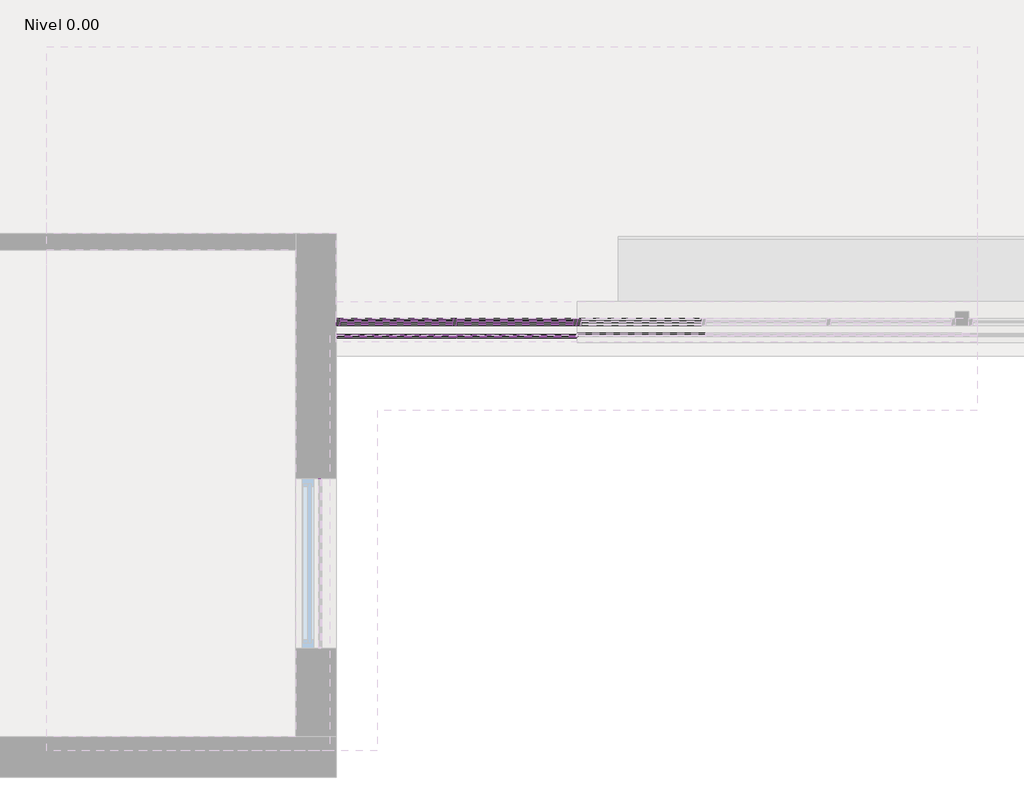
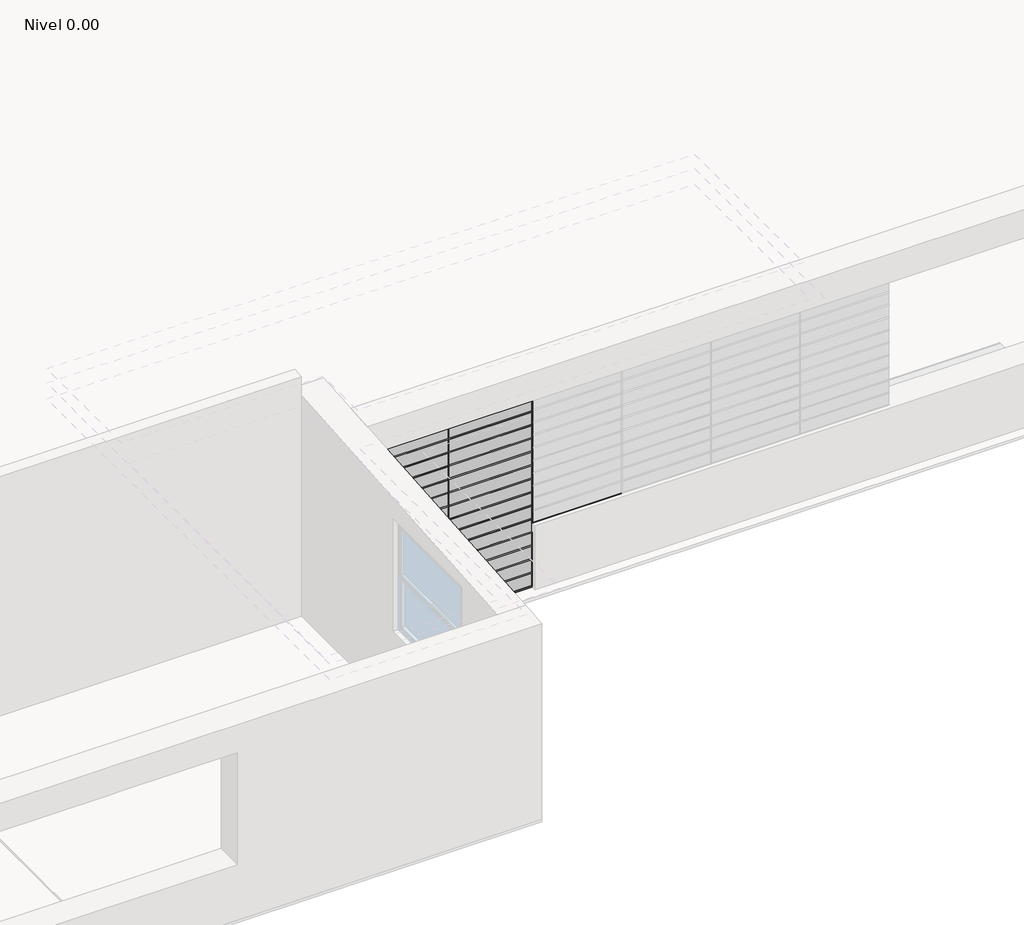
# One storey, part 4 of 27: 100 members, 34 plates.
"""IFC4 building model written with IfcOpenShell, lengths in millimetres."""

from ifc_helpers import new_model, si_unit, origin, place, context, project, spatial, transform, mapped, element, save
from components import circular_mullion_d5be03f1, l_corner_mullion_2c31851b, l_corner_mullion_9e21fd81, rectangular_mullion_753db272, rectangular_mullion_c3d7c421, rectangular_mullion_9b3c7308, rectangular_mullion_00d0a17d, rectangular_mullion_a87e72df, rectangular_mullion_5c6d569c, rectangular_mullion_86ff511a, rectangular_mullion_b6f05ad7, rectangular_mullion_9a28259a, rectangular_mullion_4732226b, rectangular_mullion_bccfeea3, system_panel_837103f9, system_panel_46786032, system_panel_glazed_9dac0013, system_panel_glazed_10130634, system_panel_glazed_d3d69ba9, system_panel_glazed_db34575f

model = new_model("IFC4")

# Units and contexts
model_context = context("Model", 3, world=origin())
ifc_project = project(units=[si_unit("LENGTHUNIT", "METRE", prefix="MILLI")], contexts=[model_context])

# Site, building, storey
site = spatial("IfcSite", under=ifc_project)
building = spatial("IfcBuilding", under=site)
storey = spatial("IfcBuildingStorey", under=building, Name="Nivel 0.00", Elevation=0.0)

# Members
placement = place(None, origin())
circular_mullion_shape = circular_mullion_d5be03f1(model_context)
element("IfcMember", 1, ObjectType="Circular Mullion : ARQ_HERR_16mm", at=placement, inside=storey, context=model_context, shape_type="MappedRepresentation", body=[
    mapped(circular_mullion_shape, transform((-5082.0557705, -3840.5609004, 150.0), x_axis=(0.0, 0.0, 1.0), y_axis=(0.0, 1.0, 0.0), z_axis=(-1.0, 0.0, 0.0))),
])
element("IfcMember", 2, ObjectType="Circular Mullion : ARQ_HERR_16mm", at=placement, inside=storey, context=model_context, shape_type="MappedRepresentation", body=[
    mapped(circular_mullion_shape, transform((-5964.0557705, -3840.5609004, 150.0), x_axis=(0.0, 0.0, 1.0), y_axis=(0.0, 1.0, 0.0), z_axis=(-1.0, 0.0, 0.0))),
])
element("IfcMember", 3, ObjectType="Circular Mullion : ARQ_HERR_16mm", at=placement, inside=storey, context=model_context, shape_type="MappedRepresentation", body=[
    mapped(circular_mullion_shape, transform((-5082.0557705, -3840.5609004, 300.0), x_axis=(0.0, 0.0, 1.0), y_axis=(0.0, 1.0, 0.0), z_axis=(-1.0, 0.0, 0.0))),
])
element("IfcMember", 4, ObjectType="Circular Mullion : ARQ_HERR_16mm", at=placement, inside=storey, context=model_context, shape_type="MappedRepresentation", body=[
    mapped(circular_mullion_shape, transform((-5964.0557705, -3840.5609004, 300.0), x_axis=(0.0, 0.0, 1.0), y_axis=(0.0, 1.0, 0.0), z_axis=(-1.0, 0.0, 0.0))),
])
element("IfcMember", 5, ObjectType="Circular Mullion : ARQ_HERR_16mm", at=placement, inside=storey, context=model_context, shape_type="MappedRepresentation", body=[
    mapped(circular_mullion_shape, transform((-5082.0557705, -3840.5609004, 450.0), x_axis=(0.0, 0.0, 1.0), y_axis=(0.0, 1.0, 0.0), z_axis=(-1.0, 0.0, 0.0))),
])
element("IfcMember", 6, ObjectType="Circular Mullion : ARQ_HERR_16mm", at=placement, inside=storey, context=model_context, shape_type="MappedRepresentation", body=[
    mapped(circular_mullion_shape, transform((-5964.0557705, -3840.5609004, 450.0), x_axis=(0.0, 0.0, 1.0), y_axis=(0.0, 1.0, 0.0), z_axis=(-1.0, 0.0, 0.0))),
])
element("IfcMember", 7, ObjectType="Circular Mullion : ARQ_HERR_16mm", at=placement, inside=storey, context=model_context, shape_type="MappedRepresentation", body=[
    mapped(circular_mullion_shape, transform((-5082.0557705, -3840.5609004, 600.0), x_axis=(0.0, 0.0, 1.0), y_axis=(0.0, 1.0, 0.0), z_axis=(-1.0, 0.0, 0.0))),
])
element("IfcMember", 8, ObjectType="Circular Mullion : ARQ_HERR_16mm", at=placement, inside=storey, context=model_context, shape_type="MappedRepresentation", body=[
    mapped(circular_mullion_shape, transform((-5964.0557705, -3840.5609004, 600.0), x_axis=(0.0, 0.0, 1.0), y_axis=(0.0, 1.0, 0.0), z_axis=(-1.0, 0.0, 0.0))),
])
element("IfcMember", 9, ObjectType="Circular Mullion : ARQ_HERR_16mm", at=placement, inside=storey, context=model_context, shape_type="MappedRepresentation", body=[
    mapped(circular_mullion_shape, transform((-5082.0557705, -3840.5609004, 750.0), x_axis=(0.0, 0.0, 1.0), y_axis=(0.0, 1.0, 0.0), z_axis=(-1.0, 0.0, 0.0))),
])
element("IfcMember", 10, ObjectType="Circular Mullion : ARQ_HERR_16mm", at=placement, inside=storey, context=model_context, shape_type="MappedRepresentation", body=[
    mapped(circular_mullion_shape, transform((-5964.0557705, -3840.5609004, 750.0), x_axis=(0.0, 0.0, 1.0), y_axis=(0.0, 1.0, 0.0), z_axis=(-1.0, 0.0, 0.0))),
])
element("IfcMember", 11, ObjectType="Circular Mullion : ARQ_HERR_16mm", at=placement, inside=storey, context=model_context, shape_type="MappedRepresentation", body=[
    mapped(circular_mullion_shape, transform((-5082.0557705, -3840.5609004, 900.0), x_axis=(0.0, 0.0, 1.0), y_axis=(0.0, 1.0, 0.0), z_axis=(-1.0, 0.0, 0.0))),
])
element("IfcMember", 12, ObjectType="Circular Mullion : ARQ_HERR_16mm", at=placement, inside=storey, context=model_context, shape_type="MappedRepresentation", body=[
    mapped(circular_mullion_shape, transform((-5964.0557705, -3840.5609004, 900.0), x_axis=(0.0, 0.0, 1.0), y_axis=(0.0, 1.0, 0.0), z_axis=(-1.0, 0.0, 0.0))),
])
element("IfcMember", 13, ObjectType="Circular Mullion : ARQ_HERR_16mm", at=placement, inside=storey, context=model_context, shape_type="MappedRepresentation", body=[
    mapped(circular_mullion_shape, transform((-5082.0557705, -3840.5609004, 1050.0), x_axis=(0.0, 0.0, 1.0), y_axis=(0.0, 1.0, 0.0), z_axis=(-1.0, 0.0, 0.0))),
])
element("IfcMember", 14, ObjectType="Circular Mullion : ARQ_HERR_16mm", at=placement, inside=storey, context=model_context, shape_type="MappedRepresentation", body=[
    mapped(circular_mullion_shape, transform((-5964.0557705, -3840.5609004, 1050.0), x_axis=(0.0, 0.0, 1.0), y_axis=(0.0, 1.0, 0.0), z_axis=(-1.0, 0.0, 0.0))),
])
element("IfcMember", 15, ObjectType="Circular Mullion : ARQ_HERR_16mm", at=placement, inside=storey, context=model_context, shape_type="MappedRepresentation", body=[
    mapped(circular_mullion_shape, transform((-5082.0557705, -3840.5609004, 1200.0), x_axis=(0.0, 0.0, 1.0), y_axis=(0.0, 1.0, 0.0), z_axis=(-1.0, 0.0, 0.0))),
])
element("IfcMember", 16, ObjectType="Circular Mullion : ARQ_HERR_16mm", at=placement, inside=storey, context=model_context, shape_type="MappedRepresentation", body=[
    mapped(circular_mullion_shape, transform((-5964.0557705, -3840.5609004, 1200.0), x_axis=(0.0, 0.0, 1.0), y_axis=(0.0, 1.0, 0.0), z_axis=(-1.0, 0.0, 0.0))),
])
element("IfcMember", 17, ObjectType="Circular Mullion : ARQ_HERR_16mm", at=placement, inside=storey, context=model_context, shape_type="MappedRepresentation", body=[
    mapped(circular_mullion_shape, transform((-5082.0557705, -3840.5609004, 1350.0), x_axis=(0.0, 0.0, 1.0), y_axis=(0.0, 1.0, 0.0), z_axis=(-1.0, 0.0, 0.0))),
])
element("IfcMember", 18, ObjectType="Circular Mullion : ARQ_HERR_16mm", at=placement, inside=storey, context=model_context, shape_type="MappedRepresentation", body=[
    mapped(circular_mullion_shape, transform((-5964.0557705, -3840.5609004, 1350.0), x_axis=(0.0, 0.0, 1.0), y_axis=(0.0, 1.0, 0.0), z_axis=(-1.0, 0.0, 0.0))),
])
element("IfcMember", 19, ObjectType="Circular Mullion : ARQ_HERR_16mm", at=placement, inside=storey, context=model_context, shape_type="MappedRepresentation", body=[
    mapped(circular_mullion_shape, transform((-5082.0557705, -3840.5609004, 1500.0), x_axis=(0.0, 0.0, 1.0), y_axis=(0.0, 1.0, 0.0), z_axis=(-1.0, 0.0, 0.0))),
])
element("IfcMember", 20, ObjectType="Circular Mullion : ARQ_HERR_16mm", at=placement, inside=storey, context=model_context, shape_type="MappedRepresentation", body=[
    mapped(circular_mullion_shape, transform((-5964.0557705, -3840.5609004, 1500.0), x_axis=(0.0, 0.0, 1.0), y_axis=(0.0, 1.0, 0.0), z_axis=(-1.0, 0.0, 0.0))),
])
element("IfcMember", 21, ObjectType="Circular Mullion : ARQ_HERR_16mm", at=placement, inside=storey, context=model_context, shape_type="MappedRepresentation", body=[
    mapped(circular_mullion_shape, transform((-5082.0557705, -3840.5609004, 1650.0), x_axis=(0.0, 0.0, 1.0), y_axis=(0.0, 1.0, 0.0), z_axis=(-1.0, 0.0, 0.0))),
])
element("IfcMember", 22, ObjectType="Circular Mullion : ARQ_HERR_16mm", at=placement, inside=storey, context=model_context, shape_type="MappedRepresentation", body=[
    mapped(circular_mullion_shape, transform((-5964.0557705, -3840.5609004, 1650.0), x_axis=(0.0, 0.0, 1.0), y_axis=(0.0, 1.0, 0.0), z_axis=(-1.0, 0.0, 0.0))),
])
element("IfcMember", 23, ObjectType="Circular Mullion : ARQ_HERR_16mm", at=placement, inside=storey, context=model_context, shape_type="MappedRepresentation", body=[
    mapped(circular_mullion_shape, transform((-5082.0557705, -3840.5609004, 1800.0), x_axis=(0.0, 0.0, 1.0), y_axis=(0.0, 1.0, 0.0), z_axis=(-1.0, 0.0, 0.0))),
])
element("IfcMember", 24, ObjectType="Circular Mullion : ARQ_HERR_16mm", at=placement, inside=storey, context=model_context, shape_type="MappedRepresentation", body=[
    mapped(circular_mullion_shape, transform((-5964.0557705, -3840.5609004, 1800.0), x_axis=(0.0, 0.0, 1.0), y_axis=(0.0, 1.0, 0.0), z_axis=(-1.0, 0.0, 0.0))),
])
element("IfcMember", 25, ObjectType="Circular Mullion : ARQ_HERR_16mm", at=placement, inside=storey, context=model_context, shape_type="MappedRepresentation", body=[
    mapped(circular_mullion_shape, transform((-5082.0557705, -3840.5609004, 1950.0), x_axis=(0.0, 0.0, 1.0), y_axis=(0.0, 1.0, 0.0), z_axis=(-1.0, 0.0, 0.0))),
])
element("IfcMember", 26, ObjectType="Circular Mullion : ARQ_HERR_16mm", at=placement, inside=storey, context=model_context, shape_type="MappedRepresentation", body=[
    mapped(circular_mullion_shape, transform((-5964.0557705, -3840.5609004, 1950.0), x_axis=(0.0, 0.0, 1.0), y_axis=(0.0, 1.0, 0.0), z_axis=(-1.0, 0.0, 0.0))),
])
l_corner_mullion_shape = l_corner_mullion_2c31851b(model_context)
element("IfcMember", 27, ObjectType="L Corner Mullion : ARQ_HERR_15X6mm", at=placement, inside=storey, context=model_context, shape_type="MappedRepresentation", body=[
    mapped(l_corner_mullion_shape, transform((-4194.0557705, -3840.5609004, 700.0), x_axis=(0.0, 0.0, -1.0), y_axis=(0.0, -1.0, 0.0), z_axis=(-1.0, 0.0, 0.0))),
])
l_corner_mullion_2_shape = l_corner_mullion_9e21fd81(model_context)
element("IfcMember", 28, ObjectType="L Corner Mullion : ARQ_HERR_15X6mm", at=placement, inside=storey, context=model_context, shape_type="MappedRepresentation", body=[
    mapped(l_corner_mullion_2_shape, transform((-5964.0557705, -3840.5609004, 2100.0), x_axis=(0.0, 0.0, 1.0), y_axis=(0.0, 1.0, 0.0), z_axis=(-1.0, 0.0, 0.0))),
])
element("IfcMember", 29, ObjectType="L Corner Mullion : ARQ_HERR_15X6mm", at=placement, inside=storey, context=model_context, shape_type="MappedRepresentation", body=[
    mapped(l_corner_mullion_2_shape, transform((-5082.0557705, -3840.5609004, 2100.0), x_axis=(0.0, 0.0, 1.0), y_axis=(0.0, 1.0, 0.0), z_axis=(-1.0, 0.0, 0.0))),
])
element("IfcMember", 30, ObjectType="L Corner Mullion : ARQ_HERR_15X6mm", at=placement, inside=storey, context=model_context, shape_type="MappedRepresentation", body=[
    mapped(l_corner_mullion_2_shape, transform((-4206.0557705, -3840.5609004, 0.0), x_axis=(0.0, 0.0, -1.0), y_axis=(0.0, 1.0, 0.0), z_axis=(1.0, 0.0, 0.0))),
])
element("IfcMember", 31, ObjectType="L Corner Mullion : ARQ_HERR_15X6mm", at=placement, inside=storey, context=model_context, shape_type="MappedRepresentation", body=[
    mapped(l_corner_mullion_2_shape, transform((-5088.0557705, -3840.5609004, 0.0), x_axis=(0.0, 0.0, -1.0), y_axis=(0.0, 1.0, 0.0), z_axis=(1.0, 0.0, 0.0))),
])
rectangular_mullion_shape = rectangular_mullion_753db272(model_context)
element("IfcMember", 32, ObjectType="Rectangular Mullion : ARQ_TV_MULL_50x30mm", at=placement, inside=storey, context=model_context, shape_type="MappedRepresentation", body=[
    mapped(rectangular_mullion_shape, transform((-4230.0557705, -3740.6047654, 2100.0), x_axis=(0.0, 0.0, 1.0), y_axis=(0.0, -1.0, 0.0), z_axis=(1.0, 0.0, 0.0))),
])
rectangular_mullion_2_shape = rectangular_mullion_c3d7c421(model_context)
element("IfcMember", 33, ObjectType="Rectangular Mullion : ARQ_TV_MULL_50x30mm", at=placement, inside=storey, context=model_context, shape_type="MappedRepresentation", body=[
    mapped(rectangular_mullion_2_shape, transform((-5115.0557705, -3740.6047654, 2100.0), x_axis=(0.0, 0.0, 1.0), y_axis=(0.0, -1.0, 0.0), z_axis=(1.0, 0.0, 0.0))),
])
element("IfcMember", 34, ObjectType="Rectangular Mullion : ARQ_TV_MULL_50x30mm", at=placement, inside=storey, context=model_context, shape_type="MappedRepresentation", body=[
    mapped(rectangular_mullion_2_shape, transform((-5940.0557705, -3740.6047654, 0.0), x_axis=(0.0, 0.0, -1.0), y_axis=(0.0, -1.0, 0.0), z_axis=(-1.0, 0.0, 0.0))),
])
element("IfcMember", 35, ObjectType="Rectangular Mullion : ARQ_TV_MULL_50x30mm", at=placement, inside=storey, context=model_context, shape_type="MappedRepresentation", body=[
    mapped(rectangular_mullion_shape, transform((-5085.0557705, -3740.6047654, 0.0), x_axis=(0.0, 0.0, -1.0), y_axis=(0.0, -1.0, 0.0), z_axis=(-1.0, 0.0, 0.0))),
])
rectangular_mullion_3_shape = rectangular_mullion_9b3c7308(model_context)
element("IfcMember", 36, ObjectType="Rectangular Mullion : ARQ_TV_MULL_30x20mm", at=placement, inside=storey, context=model_context, shape_type="MappedRepresentation", body=[
    mapped(rectangular_mullion_3_shape, transform((-5115.0557705, -3740.6047654, 700.0), x_axis=(0.0, 0.0, 1.0), y_axis=(0.0, -1.0, 0.0), z_axis=(1.0, 0.0, 0.0))),
])
element("IfcMember", 37, ObjectType="Rectangular Mullion : ARQ_TV_MULL_30x20mm", at=placement, inside=storey, context=model_context, shape_type="MappedRepresentation", body=[
    mapped(rectangular_mullion_3_shape, transform((-5115.0557705, -3740.6047654, 1400.0), x_axis=(0.0, 0.0, 1.0), y_axis=(0.0, -1.0, 0.0), z_axis=(1.0, 0.0, 0.0))),
])
rectangular_mullion_4_shape = rectangular_mullion_00d0a17d(model_context)
element("IfcMember", 38, ObjectType="Rectangular Mullion : ARQ_TV_MULL_30x20mm", at=placement, inside=storey, context=model_context, shape_type="MappedRepresentation", body=[
    mapped(rectangular_mullion_4_shape, transform((-4230.0557705, -3740.6047654, 700.0), x_axis=(0.0, 0.0, 1.0), y_axis=(0.0, -1.0, 0.0), z_axis=(1.0, 0.0, 0.0))),
])
element("IfcMember", 39, ObjectType="Rectangular Mullion : ARQ_TV_MULL_30x20mm", at=placement, inside=storey, context=model_context, shape_type="MappedRepresentation", body=[
    mapped(rectangular_mullion_4_shape, transform((-4230.0557705, -3740.6047654, 1400.0), x_axis=(0.0, 0.0, 1.0), y_axis=(0.0, -1.0, 0.0), z_axis=(1.0, 0.0, 0.0))),
])
rectangular_mullion_5_shape = rectangular_mullion_a87e72df(model_context)
element("IfcMember", 40, ObjectType="Rectangular Mullion : ARQ_TV_MULL_50x30mm", at=placement, inside=storey, context=model_context, shape_type="MappedRepresentation", body=[
    mapped(rectangular_mullion_5_shape, transform((-5100.0557705, -3740.6047654, 0.0), x_axis=(1.0, 0.0, 0.0), y_axis=(0.0, -1.0, 0.0), z_axis=(0.0, 0.0, -1.0))),
])
element("IfcMember", 41, ObjectType="Rectangular Mullion : ARQ_TV_MULL_50x30mm", at=placement, inside=storey, context=model_context, shape_type="MappedRepresentation", body=[
    mapped(rectangular_mullion_5_shape, transform((-5100.0557705, -3740.6047654, 1400.0), x_axis=(1.0, 0.0, 0.0), y_axis=(0.0, -1.0, 0.0), z_axis=(0.0, 0.0, -1.0))),
])
rectangular_mullion_6_shape = rectangular_mullion_5c6d569c(model_context)
element("IfcMember", 42, ObjectType="Rectangular Mullion : ARQ_TV_MULL_50x30mm", at=placement, inside=storey, context=model_context, shape_type="MappedRepresentation", body=[
    mapped(rectangular_mullion_6_shape, transform((-4200.0557705, -3740.6047654, 0.0), x_axis=(1.0, 0.0, 0.0), y_axis=(0.0, -1.0, 0.0), z_axis=(0.0, 0.0, -1.0))),
])
element("IfcMember", 43, ObjectType="Rectangular Mullion : ARQ_TV_MULL_50x30mm", at=placement, inside=storey, context=model_context, shape_type="MappedRepresentation", body=[
    mapped(rectangular_mullion_6_shape, transform((-4200.0557705, -3740.6047654, 1400.0), x_axis=(1.0, 0.0, 0.0), y_axis=(0.0, -1.0, 0.0), z_axis=(0.0, 0.0, -1.0))),
])
element("IfcMember", 44, ObjectType="Rectangular Mullion : ARQ_TV_MULL_50x30mm", at=placement, inside=storey, context=model_context, shape_type="MappedRepresentation", body=[
    mapped(rectangular_mullion_6_shape, transform((-5970.0557705, -3740.6047654, 2100.0), x_axis=(-1.0, 0.0, 0.0), y_axis=(0.0, -1.0, 0.0), z_axis=(0.0, 0.0, 1.0))),
])
element("IfcMember", 45, ObjectType="Rectangular Mullion : ARQ_TV_MULL_50x30mm", at=placement, inside=storey, context=model_context, shape_type="MappedRepresentation", body=[
    mapped(rectangular_mullion_6_shape, transform((-4200.0557705, -3740.6047654, 2100.0), x_axis=(-1.0, 0.0, 0.0), y_axis=(0.0, -1.0, 0.0), z_axis=(0.0, 0.0, 1.0))),
])
element("IfcMember", 46, ObjectType="Rectangular Mullion : ARQ_TV_MULL_50x30mm", at=placement, inside=storey, context=model_context, shape_type="MappedRepresentation", body=[
    mapped(rectangular_mullion_6_shape, transform((-5970.0557705, -3740.6047654, 700.0), x_axis=(-1.0, 0.0, 0.0), y_axis=(0.0, -1.0, 0.0), z_axis=(0.0, 0.0, 1.0))),
])
element("IfcMember", 47, ObjectType="Rectangular Mullion : ARQ_TV_MULL_50x30mm", at=placement, inside=storey, context=model_context, shape_type="MappedRepresentation", body=[
    mapped(rectangular_mullion_6_shape, transform((-4200.0557705, -3740.6047654, 1400.0), x_axis=(-1.0, 0.0, 0.0), y_axis=(0.0, -1.0, 0.0), z_axis=(0.0, 0.0, 1.0))),
])
rectangular_mullion_7_shape = rectangular_mullion_86ff511a(model_context)
element("IfcMember", 48, ObjectType="Rectangular Mullion : ARQ_TV_MULL_50x30mm", at=placement, inside=storey, context=model_context, shape_type="MappedRepresentation", body=[
    mapped(rectangular_mullion_7_shape, transform((-4170.0557705, -3740.6047654, 700.0), x_axis=(0.0, 0.0, -1.0), y_axis=(0.0, -1.0, 0.0), z_axis=(-1.0, 0.0, 0.0))),
])
element("IfcMember", 49, ObjectType="Rectangular Mullion : ARQ_TV_MULL_50x30mm", at=placement, inside=storey, context=model_context, shape_type="MappedRepresentation", body=[
    mapped(rectangular_mullion_5_shape, transform((-5100.0557705, -3740.6047654, 700.0), x_axis=(1.0, 0.0, 0.0), y_axis=(0.0, -1.0, 0.0), z_axis=(0.0, 0.0, -1.0))),
])
element("IfcMember", 50, ObjectType="Rectangular Mullion : ARQ_TV_MULL_50x30mm", at=placement, inside=storey, context=model_context, shape_type="MappedRepresentation", body=[
    mapped(rectangular_mullion_6_shape, transform((-4200.0557705, -3740.6047654, 700.0), x_axis=(1.0, 0.0, 0.0), y_axis=(0.0, -1.0, 0.0), z_axis=(0.0, 0.0, -1.0))),
])
element("IfcMember", 51, ObjectType="Rectangular Mullion : ARQ_TV_MULL_50x30mm", at=placement, inside=storey, context=model_context, shape_type="MappedRepresentation", body=[
    mapped(rectangular_mullion_6_shape, transform((-5970.0557705, -3740.6047654, 1400.0), x_axis=(-1.0, 0.0, 0.0), y_axis=(0.0, -1.0, 0.0), z_axis=(0.0, 0.0, 1.0))),
])
rectangular_mullion_8_shape = rectangular_mullion_b6f05ad7(model_context)
element("IfcMember", 52, ObjectType="Rectangular Mullion : ARQ_HERR_15X6mm", at=placement, inside=storey, context=model_context, shape_type="MappedRepresentation", body=[
    mapped(rectangular_mullion_8_shape, transform((-4200.0557705, -3840.5609004, 2100.0), x_axis=(-1.0, 0.0, 0.0), y_axis=(0.0, -1.0, 0.0), z_axis=(0.0, 0.0, 1.0))),
])
element("IfcMember", 53, ObjectType="Rectangular Mullion : ARQ_HERR_15X6mm", at=placement, inside=storey, context=model_context, shape_type="MappedRepresentation", body=[
    mapped(rectangular_mullion_8_shape, transform((-4200.0557705, -3840.5609004, 840.0), x_axis=(-1.0, 0.0, 0.0), y_axis=(0.0, -1.0, 0.0), z_axis=(0.0, 0.0, 1.0))),
])
element("IfcMember", 54, ObjectType="Rectangular Mullion : ARQ_HERR_15X6mm", at=placement, inside=storey, context=model_context, shape_type="MappedRepresentation", body=[
    mapped(rectangular_mullion_8_shape, transform((-4200.0557705, -3840.5609004, 980.0), x_axis=(-1.0, 0.0, 0.0), y_axis=(0.0, -1.0, 0.0), z_axis=(0.0, 0.0, 1.0))),
])
element("IfcMember", 55, ObjectType="Rectangular Mullion : ARQ_HERR_15X6mm", at=placement, inside=storey, context=model_context, shape_type="MappedRepresentation", body=[
    mapped(rectangular_mullion_8_shape, transform((-4200.0557705, -3840.5609004, 1120.0), x_axis=(-1.0, 0.0, 0.0), y_axis=(0.0, -1.0, 0.0), z_axis=(0.0, 0.0, 1.0))),
])
element("IfcMember", 56, ObjectType="Rectangular Mullion : ARQ_HERR_15X6mm", at=placement, inside=storey, context=model_context, shape_type="MappedRepresentation", body=[
    mapped(rectangular_mullion_8_shape, transform((-4200.0557705, -3840.5609004, 1260.0), x_axis=(-1.0, 0.0, 0.0), y_axis=(0.0, -1.0, 0.0), z_axis=(0.0, 0.0, 1.0))),
])
element("IfcMember", 57, ObjectType="Rectangular Mullion : ARQ_HERR_15X6mm", at=placement, inside=storey, context=model_context, shape_type="MappedRepresentation", body=[
    mapped(rectangular_mullion_8_shape, transform((-4200.0557705, -3840.5609004, 1400.0), x_axis=(-1.0, 0.0, 0.0), y_axis=(0.0, -1.0, 0.0), z_axis=(0.0, 0.0, 1.0))),
])
element("IfcMember", 58, ObjectType="Rectangular Mullion : ARQ_HERR_15X6mm", at=placement, inside=storey, context=model_context, shape_type="MappedRepresentation", body=[
    mapped(rectangular_mullion_8_shape, transform((-4200.0557705, -3840.5609004, 1540.0), x_axis=(-1.0, 0.0, 0.0), y_axis=(0.0, -1.0, 0.0), z_axis=(0.0, 0.0, 1.0))),
])
element("IfcMember", 59, ObjectType="Rectangular Mullion : ARQ_HERR_15X6mm", at=placement, inside=storey, context=model_context, shape_type="MappedRepresentation", body=[
    mapped(rectangular_mullion_8_shape, transform((-4200.0557705, -3840.5609004, 1680.0), x_axis=(-1.0, 0.0, 0.0), y_axis=(0.0, -1.0, 0.0), z_axis=(0.0, 0.0, 1.0))),
])
element("IfcMember", 60, ObjectType="Rectangular Mullion : ARQ_HERR_15X6mm", at=placement, inside=storey, context=model_context, shape_type="MappedRepresentation", body=[
    mapped(rectangular_mullion_8_shape, transform((-4200.0557705, -3840.5609004, 1820.0), x_axis=(-1.0, 0.0, 0.0), y_axis=(0.0, -1.0, 0.0), z_axis=(0.0, 0.0, 1.0))),
])
element("IfcMember", 61, ObjectType="Rectangular Mullion : ARQ_HERR_15X6mm", at=placement, inside=storey, context=model_context, shape_type="MappedRepresentation", body=[
    mapped(rectangular_mullion_8_shape, transform((-4200.0557705, -3840.5609004, 1960.0), x_axis=(-1.0, 0.0, 0.0), y_axis=(0.0, -1.0, 0.0), z_axis=(0.0, 0.0, 1.0))),
])
rectangular_mullion_9_shape = rectangular_mullion_9a28259a(model_context)
element("IfcMember", 62, ObjectType="Rectangular Mullion : ARQ_HERR_15X6mm", at=placement, inside=storey, context=model_context, shape_type="MappedRepresentation", body=[
    mapped(rectangular_mullion_9_shape, transform((-6092.5557705, -4890.5609005, 1266.6666667), x_axis=(0.0, 1.0, 0.0), y_axis=(-1.0, 0.0, 0.0), z_axis=(0.0, 0.0, 1.0))),
])
element("IfcMember", 63, ObjectType="Rectangular Mullion : ARQ_HERR_15X6mm", at=placement, inside=storey, context=model_context, shape_type="MappedRepresentation", body=[
    mapped(rectangular_mullion_9_shape, transform((-6092.5557705, -4890.5609005, 1405.5555556), x_axis=(0.0, 1.0, 0.0), y_axis=(-1.0, 0.0, 0.0), z_axis=(0.0, 0.0, 1.0))),
])
element("IfcMember", 64, ObjectType="Rectangular Mullion : ARQ_HERR_15X6mm", at=placement, inside=storey, context=model_context, shape_type="MappedRepresentation", body=[
    mapped(rectangular_mullion_9_shape, transform((-6092.5557705, -4890.5609005, 1544.4444444), x_axis=(0.0, 1.0, 0.0), y_axis=(-1.0, 0.0, 0.0), z_axis=(0.0, 0.0, 1.0))),
])
element("IfcMember", 65, ObjectType="Rectangular Mullion : ARQ_HERR_15X6mm", at=placement, inside=storey, context=model_context, shape_type="MappedRepresentation", body=[
    mapped(rectangular_mullion_9_shape, transform((-6092.5557705, -4890.5609005, 1683.3333333), x_axis=(0.0, 1.0, 0.0), y_axis=(-1.0, 0.0, 0.0), z_axis=(0.0, 0.0, 1.0))),
])
element("IfcMember", 66, ObjectType="Rectangular Mullion : ARQ_HERR_15X6mm", at=placement, inside=storey, context=model_context, shape_type="MappedRepresentation", body=[
    mapped(rectangular_mullion_9_shape, transform((-6092.5557705, -4890.5609005, 1822.2222222), x_axis=(0.0, 1.0, 0.0), y_axis=(-1.0, 0.0, 0.0), z_axis=(0.0, 0.0, 1.0))),
])
element("IfcMember", 67, ObjectType="Rectangular Mullion : ARQ_HERR_15X6mm", at=placement, inside=storey, context=model_context, shape_type="MappedRepresentation", body=[
    mapped(rectangular_mullion_9_shape, transform((-6092.5557705, -4890.5609005, 1961.1111111), x_axis=(0.0, 1.0, 0.0), y_axis=(-1.0, 0.0, 0.0), z_axis=(0.0, 0.0, 1.0))),
])
rectangular_mullion_10_shape = rectangular_mullion_4732226b(model_context)
element("IfcMember", 68, ObjectType="Rectangular Mullion : ARQ_HERR_15X6mm", at=placement, inside=storey, context=model_context, shape_type="MappedRepresentation", body=[
    mapped(rectangular_mullion_10_shape, transform((-5085.0557705, -3840.5609004, 0.0), x_axis=(-1.0, 0.0, 0.0), y_axis=(0.0, 1.0, 0.0), z_axis=(0.0, 0.0, -1.0))),
])
element("IfcMember", 69, ObjectType="Rectangular Mullion : ARQ_HERR_15X6mm", at=placement, inside=storey, context=model_context, shape_type="MappedRepresentation", body=[
    mapped(rectangular_mullion_10_shape, transform((-5085.0557705, -3840.5609004, 150.0), x_axis=(-1.0, 0.0, 0.0), y_axis=(0.0, 1.0, 0.0), z_axis=(0.0, 0.0, -1.0))),
])
element("IfcMember", 70, ObjectType="Rectangular Mullion : ARQ_HERR_15X6mm", at=placement, inside=storey, context=model_context, shape_type="MappedRepresentation", body=[
    mapped(rectangular_mullion_10_shape, transform((-5085.0557705, -3840.5609004, 300.0), x_axis=(-1.0, 0.0, 0.0), y_axis=(0.0, 1.0, 0.0), z_axis=(0.0, 0.0, -1.0))),
])
element("IfcMember", 71, ObjectType="Rectangular Mullion : ARQ_HERR_15X6mm", at=placement, inside=storey, context=model_context, shape_type="MappedRepresentation", body=[
    mapped(rectangular_mullion_10_shape, transform((-5085.0557705, -3840.5609004, 450.0), x_axis=(-1.0, 0.0, 0.0), y_axis=(0.0, 1.0, 0.0), z_axis=(0.0, 0.0, -1.0))),
])
element("IfcMember", 72, ObjectType="Rectangular Mullion : ARQ_HERR_15X6mm", at=placement, inside=storey, context=model_context, shape_type="MappedRepresentation", body=[
    mapped(rectangular_mullion_10_shape, transform((-5085.0557705, -3840.5609004, 600.0), x_axis=(-1.0, 0.0, 0.0), y_axis=(0.0, 1.0, 0.0), z_axis=(0.0, 0.0, -1.0))),
])
element("IfcMember", 73, ObjectType="Rectangular Mullion : ARQ_HERR_15X6mm", at=placement, inside=storey, context=model_context, shape_type="MappedRepresentation", body=[
    mapped(rectangular_mullion_10_shape, transform((-5085.0557705, -3840.5609004, 750.0), x_axis=(-1.0, 0.0, 0.0), y_axis=(0.0, 1.0, 0.0), z_axis=(0.0, 0.0, -1.0))),
])
element("IfcMember", 74, ObjectType="Rectangular Mullion : ARQ_HERR_15X6mm", at=placement, inside=storey, context=model_context, shape_type="MappedRepresentation", body=[
    mapped(rectangular_mullion_10_shape, transform((-5085.0557705, -3840.5609004, 900.0), x_axis=(-1.0, 0.0, 0.0), y_axis=(0.0, 1.0, 0.0), z_axis=(0.0, 0.0, -1.0))),
])
element("IfcMember", 75, ObjectType="Rectangular Mullion : ARQ_HERR_15X6mm", at=placement, inside=storey, context=model_context, shape_type="MappedRepresentation", body=[
    mapped(rectangular_mullion_10_shape, transform((-5085.0557705, -3840.5609004, 1050.0), x_axis=(-1.0, 0.0, 0.0), y_axis=(0.0, 1.0, 0.0), z_axis=(0.0, 0.0, -1.0))),
])
element("IfcMember", 76, ObjectType="Rectangular Mullion : ARQ_HERR_15X6mm", at=placement, inside=storey, context=model_context, shape_type="MappedRepresentation", body=[
    mapped(rectangular_mullion_10_shape, transform((-5085.0557705, -3840.5609004, 1200.0), x_axis=(-1.0, 0.0, 0.0), y_axis=(0.0, 1.0, 0.0), z_axis=(0.0, 0.0, -1.0))),
])
element("IfcMember", 77, ObjectType="Rectangular Mullion : ARQ_HERR_15X6mm", at=placement, inside=storey, context=model_context, shape_type="MappedRepresentation", body=[
    mapped(rectangular_mullion_10_shape, transform((-5085.0557705, -3840.5609004, 1350.0), x_axis=(-1.0, 0.0, 0.0), y_axis=(0.0, 1.0, 0.0), z_axis=(0.0, 0.0, -1.0))),
])
element("IfcMember", 78, ObjectType="Rectangular Mullion : ARQ_HERR_15X6mm", at=placement, inside=storey, context=model_context, shape_type="MappedRepresentation", body=[
    mapped(rectangular_mullion_10_shape, transform((-5085.0557705, -3840.5609004, 1500.0), x_axis=(-1.0, 0.0, 0.0), y_axis=(0.0, 1.0, 0.0), z_axis=(0.0, 0.0, -1.0))),
])
element("IfcMember", 79, ObjectType="Rectangular Mullion : ARQ_HERR_15X6mm", at=placement, inside=storey, context=model_context, shape_type="MappedRepresentation", body=[
    mapped(rectangular_mullion_10_shape, transform((-5085.0557705, -3840.5609004, 1650.0), x_axis=(-1.0, 0.0, 0.0), y_axis=(0.0, 1.0, 0.0), z_axis=(0.0, 0.0, -1.0))),
])
element("IfcMember", 80, ObjectType="Rectangular Mullion : ARQ_HERR_15X6mm", at=placement, inside=storey, context=model_context, shape_type="MappedRepresentation", body=[
    mapped(rectangular_mullion_10_shape, transform((-5085.0557705, -3840.5609004, 1800.0), x_axis=(-1.0, 0.0, 0.0), y_axis=(0.0, 1.0, 0.0), z_axis=(0.0, 0.0, -1.0))),
])
rectangular_mullion_11_shape = rectangular_mullion_bccfeea3(model_context)
element("IfcMember", 81, ObjectType="Rectangular Mullion : ARQ_HERR_15X6mm", at=placement, inside=storey, context=model_context, shape_type="MappedRepresentation", body=[
    mapped(rectangular_mullion_11_shape, transform((-5970.0557705, -3840.5609004, 0.0), x_axis=(-1.0, 0.0, 0.0), y_axis=(0.0, 1.0, 0.0), z_axis=(0.0, 0.0, -1.0))),
])
element("IfcMember", 82, ObjectType="Rectangular Mullion : ARQ_HERR_15X6mm", at=placement, inside=storey, context=model_context, shape_type="MappedRepresentation", body=[
    mapped(rectangular_mullion_11_shape, transform((-5970.0557705, -3840.5609004, 150.0), x_axis=(-1.0, 0.0, 0.0), y_axis=(0.0, 1.0, 0.0), z_axis=(0.0, 0.0, -1.0))),
])
element("IfcMember", 83, ObjectType="Rectangular Mullion : ARQ_HERR_15X6mm", at=placement, inside=storey, context=model_context, shape_type="MappedRepresentation", body=[
    mapped(rectangular_mullion_11_shape, transform((-5970.0557705, -3840.5609004, 300.0), x_axis=(-1.0, 0.0, 0.0), y_axis=(0.0, 1.0, 0.0), z_axis=(0.0, 0.0, -1.0))),
])
element("IfcMember", 84, ObjectType="Rectangular Mullion : ARQ_HERR_15X6mm", at=placement, inside=storey, context=model_context, shape_type="MappedRepresentation", body=[
    mapped(rectangular_mullion_11_shape, transform((-5970.0557705, -3840.5609004, 450.0), x_axis=(-1.0, 0.0, 0.0), y_axis=(0.0, 1.0, 0.0), z_axis=(0.0, 0.0, -1.0))),
])
element("IfcMember", 85, ObjectType="Rectangular Mullion : ARQ_HERR_15X6mm", at=placement, inside=storey, context=model_context, shape_type="MappedRepresentation", body=[
    mapped(rectangular_mullion_11_shape, transform((-5970.0557705, -3840.5609004, 600.0), x_axis=(-1.0, 0.0, 0.0), y_axis=(0.0, 1.0, 0.0), z_axis=(0.0, 0.0, -1.0))),
])
element("IfcMember", 86, ObjectType="Rectangular Mullion : ARQ_HERR_15X6mm", at=placement, inside=storey, context=model_context, shape_type="MappedRepresentation", body=[
    mapped(rectangular_mullion_11_shape, transform((-5970.0557705, -3840.5609004, 750.0), x_axis=(-1.0, 0.0, 0.0), y_axis=(0.0, 1.0, 0.0), z_axis=(0.0, 0.0, -1.0))),
])
element("IfcMember", 87, ObjectType="Rectangular Mullion : ARQ_HERR_15X6mm", at=placement, inside=storey, context=model_context, shape_type="MappedRepresentation", body=[
    mapped(rectangular_mullion_11_shape, transform((-5970.0557705, -3840.5609004, 900.0), x_axis=(-1.0, 0.0, 0.0), y_axis=(0.0, 1.0, 0.0), z_axis=(0.0, 0.0, -1.0))),
])
element("IfcMember", 88, ObjectType="Rectangular Mullion : ARQ_HERR_15X6mm", at=placement, inside=storey, context=model_context, shape_type="MappedRepresentation", body=[
    mapped(rectangular_mullion_11_shape, transform((-5970.0557705, -3840.5609004, 1050.0), x_axis=(-1.0, 0.0, 0.0), y_axis=(0.0, 1.0, 0.0), z_axis=(0.0, 0.0, -1.0))),
])
element("IfcMember", 89, ObjectType="Rectangular Mullion : ARQ_HERR_15X6mm", at=placement, inside=storey, context=model_context, shape_type="MappedRepresentation", body=[
    mapped(rectangular_mullion_11_shape, transform((-5970.0557705, -3840.5609004, 1200.0), x_axis=(-1.0, 0.0, 0.0), y_axis=(0.0, 1.0, 0.0), z_axis=(0.0, 0.0, -1.0))),
])
element("IfcMember", 90, ObjectType="Rectangular Mullion : ARQ_HERR_15X6mm", at=placement, inside=storey, context=model_context, shape_type="MappedRepresentation", body=[
    mapped(rectangular_mullion_11_shape, transform((-5970.0557705, -3840.5609004, 1350.0), x_axis=(-1.0, 0.0, 0.0), y_axis=(0.0, 1.0, 0.0), z_axis=(0.0, 0.0, -1.0))),
])
element("IfcMember", 91, ObjectType="Rectangular Mullion : ARQ_HERR_15X6mm", at=placement, inside=storey, context=model_context, shape_type="MappedRepresentation", body=[
    mapped(rectangular_mullion_11_shape, transform((-5970.0557705, -3840.5609004, 1500.0), x_axis=(-1.0, 0.0, 0.0), y_axis=(0.0, 1.0, 0.0), z_axis=(0.0, 0.0, -1.0))),
])
element("IfcMember", 92, ObjectType="Rectangular Mullion : ARQ_HERR_15X6mm", at=placement, inside=storey, context=model_context, shape_type="MappedRepresentation", body=[
    mapped(rectangular_mullion_11_shape, transform((-5970.0557705, -3840.5609004, 1650.0), x_axis=(-1.0, 0.0, 0.0), y_axis=(0.0, 1.0, 0.0), z_axis=(0.0, 0.0, -1.0))),
])
element("IfcMember", 93, ObjectType="Rectangular Mullion : ARQ_HERR_15X6mm", at=placement, inside=storey, context=model_context, shape_type="MappedRepresentation", body=[
    mapped(rectangular_mullion_11_shape, transform((-5970.0557705, -3840.5609004, 1800.0), x_axis=(-1.0, 0.0, 0.0), y_axis=(0.0, 1.0, 0.0), z_axis=(0.0, 0.0, -1.0))),
])
element("IfcMember", 94, ObjectType="Rectangular Mullion : ARQ_HERR_15X6mm", at=placement, inside=storey, context=model_context, shape_type="MappedRepresentation", body=[
    mapped(rectangular_mullion_11_shape, transform((-4200.0557705, -3840.5609004, 150.0), x_axis=(1.0, 0.0, 0.0), y_axis=(0.0, 1.0, 0.0), z_axis=(0.0, 0.0, 1.0))),
])
element("IfcMember", 95, ObjectType="Rectangular Mullion : ARQ_HERR_15X6mm", at=placement, inside=storey, context=model_context, shape_type="MappedRepresentation", body=[
    mapped(rectangular_mullion_11_shape, transform((-4200.0557705, -3840.5609004, 300.0), x_axis=(1.0, 0.0, 0.0), y_axis=(0.0, 1.0, 0.0), z_axis=(0.0, 0.0, 1.0))),
])
element("IfcMember", 96, ObjectType="Rectangular Mullion : ARQ_HERR_15X6mm", at=placement, inside=storey, context=model_context, shape_type="MappedRepresentation", body=[
    mapped(rectangular_mullion_11_shape, transform((-4200.0557705, -3840.5609004, 450.0), x_axis=(1.0, 0.0, 0.0), y_axis=(0.0, 1.0, 0.0), z_axis=(0.0, 0.0, 1.0))),
])
element("IfcMember", 97, ObjectType="Rectangular Mullion : ARQ_HERR_15X6mm", at=placement, inside=storey, context=model_context, shape_type="MappedRepresentation", body=[
    mapped(rectangular_mullion_11_shape, transform((-4200.0557705, -3840.5609004, 600.0), x_axis=(1.0, 0.0, 0.0), y_axis=(0.0, 1.0, 0.0), z_axis=(0.0, 0.0, 1.0))),
])
element("IfcMember", 98, ObjectType="Rectangular Mullion : ARQ_HERR_15X6mm", at=placement, inside=storey, context=model_context, shape_type="MappedRepresentation", body=[
    mapped(rectangular_mullion_10_shape, transform((-5085.0557705, -3840.5609004, 1950.0), x_axis=(-1.0, 0.0, 0.0), y_axis=(0.0, 1.0, 0.0), z_axis=(0.0, 0.0, -1.0))),
])
element("IfcMember", 99, ObjectType="Rectangular Mullion : ARQ_HERR_15X6mm", at=placement, inside=storey, context=model_context, shape_type="MappedRepresentation", body=[
    mapped(rectangular_mullion_11_shape, transform((-4200.0557705, -3840.5609004, 2100.0), x_axis=(1.0, 0.0, 0.0), y_axis=(0.0, 1.0, 0.0), z_axis=(0.0, 0.0, 1.0))),
])
element("IfcMember", 100, ObjectType="Rectangular Mullion : ARQ_HERR_15X6mm", at=placement, inside=storey, context=model_context, shape_type="MappedRepresentation", body=[
    mapped(rectangular_mullion_11_shape, transform((-5970.0557705, -3840.5609004, 1950.0), x_axis=(-1.0, 0.0, 0.0), y_axis=(0.0, 1.0, 0.0), z_axis=(0.0, 0.0, -1.0))),
])

# Plates
system_panel_shape = system_panel_837103f9(model_context)
element("IfcPlate", 101, ObjectType="System Panel : VACÍO", at=placement, inside=storey, context=model_context, shape_type="MappedRepresentation", body=[
    mapped(system_panel_shape, transform((-4644.0557705, -3840.5609004, 6.0), x_axis=(-1.0, 0.0, 0.0), y_axis=(0.0, -1.0, 0.0), z_axis=(0.0, 0.0, 1.0))),
])
element("IfcPlate", 102, ObjectType="System Panel : VACÍO", at=placement, inside=storey, context=model_context, shape_type="MappedRepresentation", body=[
    mapped(system_panel_shape, transform((-5526.0557705, -3840.5609004, 6.0), x_axis=(-1.0, 0.0, 0.0), y_axis=(0.0, -1.0, 0.0), z_axis=(0.0, 0.0, 1.0))),
])
element("IfcPlate", 103, ObjectType="System Panel : VACÍO", at=placement, inside=storey, context=model_context, shape_type="MappedRepresentation", body=[
    mapped(system_panel_shape, transform((-4644.0557705, -3840.5609004, 1958.0), x_axis=(-1.0, 0.0, 0.0), y_axis=(0.0, -1.0, 0.0), z_axis=(0.0, 0.0, 1.0))),
])
element("IfcPlate", 104, ObjectType="System Panel : VACÍO", at=placement, inside=storey, context=model_context, shape_type="MappedRepresentation", body=[
    mapped(system_panel_shape, transform((-5526.0557705, -3840.5609004, 1958.0), x_axis=(-1.0, 0.0, 0.0), y_axis=(0.0, -1.0, 0.0), z_axis=(0.0, 0.0, 1.0))),
])
system_panel_2_shape = system_panel_46786032(model_context)
element("IfcPlate", 105, ObjectType="System Panel : VACÍO", at=placement, inside=storey, context=model_context, shape_type="MappedRepresentation", body=[
    mapped(system_panel_2_shape, transform((-4644.0557705, -3840.5609004, 158.0), x_axis=(-1.0, 0.0, 0.0), y_axis=(0.0, -1.0, 0.0), z_axis=(0.0, 0.0, 1.0))),
])
element("IfcPlate", 106, ObjectType="System Panel : VACÍO", at=placement, inside=storey, context=model_context, shape_type="MappedRepresentation", body=[
    mapped(system_panel_2_shape, transform((-5526.0557705, -3840.5609004, 158.0), x_axis=(-1.0, 0.0, 0.0), y_axis=(0.0, -1.0, 0.0), z_axis=(0.0, 0.0, 1.0))),
])
element("IfcPlate", 107, ObjectType="System Panel : VACÍO", at=placement, inside=storey, context=model_context, shape_type="MappedRepresentation", body=[
    mapped(system_panel_2_shape, transform((-4644.0557705, -3840.5609004, 308.0), x_axis=(-1.0, 0.0, 0.0), y_axis=(0.0, -1.0, 0.0), z_axis=(0.0, 0.0, 1.0))),
])
element("IfcPlate", 108, ObjectType="System Panel : VACÍO", at=placement, inside=storey, context=model_context, shape_type="MappedRepresentation", body=[
    mapped(system_panel_2_shape, transform((-5526.0557705, -3840.5609004, 308.0), x_axis=(-1.0, 0.0, 0.0), y_axis=(0.0, -1.0, 0.0), z_axis=(0.0, 0.0, 1.0))),
])
element("IfcPlate", 109, ObjectType="System Panel : VACÍO", at=placement, inside=storey, context=model_context, shape_type="MappedRepresentation", body=[
    mapped(system_panel_2_shape, transform((-4644.0557705, -3840.5609004, 458.0), x_axis=(-1.0, 0.0, 0.0), y_axis=(0.0, -1.0, 0.0), z_axis=(0.0, 0.0, 1.0))),
])
element("IfcPlate", 110, ObjectType="System Panel : VACÍO", at=placement, inside=storey, context=model_context, shape_type="MappedRepresentation", body=[
    mapped(system_panel_2_shape, transform((-5526.0557705, -3840.5609004, 458.0), x_axis=(-1.0, 0.0, 0.0), y_axis=(0.0, -1.0, 0.0), z_axis=(0.0, 0.0, 1.0))),
])
element("IfcPlate", 111, ObjectType="System Panel : VACÍO", at=placement, inside=storey, context=model_context, shape_type="MappedRepresentation", body=[
    mapped(system_panel_2_shape, transform((-4644.0557705, -3840.5609004, 608.0), x_axis=(-1.0, 0.0, 0.0), y_axis=(0.0, -1.0, 0.0), z_axis=(0.0, 0.0, 1.0))),
])
element("IfcPlate", 112, ObjectType="System Panel : VACÍO", at=placement, inside=storey, context=model_context, shape_type="MappedRepresentation", body=[
    mapped(system_panel_2_shape, transform((-5526.0557705, -3840.5609004, 608.0), x_axis=(-1.0, 0.0, 0.0), y_axis=(0.0, -1.0, 0.0), z_axis=(0.0, 0.0, 1.0))),
])
element("IfcPlate", 113, ObjectType="System Panel : VACÍO", at=placement, inside=storey, context=model_context, shape_type="MappedRepresentation", body=[
    mapped(system_panel_2_shape, transform((-4644.0557705, -3840.5609004, 758.0), x_axis=(-1.0, 0.0, 0.0), y_axis=(0.0, -1.0, 0.0), z_axis=(0.0, 0.0, 1.0))),
])
element("IfcPlate", 114, ObjectType="System Panel : VACÍO", at=placement, inside=storey, context=model_context, shape_type="MappedRepresentation", body=[
    mapped(system_panel_2_shape, transform((-5526.0557705, -3840.5609004, 758.0), x_axis=(-1.0, 0.0, 0.0), y_axis=(0.0, -1.0, 0.0), z_axis=(0.0, 0.0, 1.0))),
])
element("IfcPlate", 115, ObjectType="System Panel : VACÍO", at=placement, inside=storey, context=model_context, shape_type="MappedRepresentation", body=[
    mapped(system_panel_2_shape, transform((-4644.0557705, -3840.5609004, 908.0), x_axis=(-1.0, 0.0, 0.0), y_axis=(0.0, -1.0, 0.0), z_axis=(0.0, 0.0, 1.0))),
])
element("IfcPlate", 116, ObjectType="System Panel : VACÍO", at=placement, inside=storey, context=model_context, shape_type="MappedRepresentation", body=[
    mapped(system_panel_2_shape, transform((-5526.0557705, -3840.5609004, 908.0), x_axis=(-1.0, 0.0, 0.0), y_axis=(0.0, -1.0, 0.0), z_axis=(0.0, 0.0, 1.0))),
])
element("IfcPlate", 117, ObjectType="System Panel : VACÍO", at=placement, inside=storey, context=model_context, shape_type="MappedRepresentation", body=[
    mapped(system_panel_2_shape, transform((-4644.0557705, -3840.5609004, 1058.0), x_axis=(-1.0, 0.0, 0.0), y_axis=(0.0, -1.0, 0.0), z_axis=(0.0, 0.0, 1.0))),
])
element("IfcPlate", 118, ObjectType="System Panel : VACÍO", at=placement, inside=storey, context=model_context, shape_type="MappedRepresentation", body=[
    mapped(system_panel_2_shape, transform((-5526.0557705, -3840.5609004, 1058.0), x_axis=(-1.0, 0.0, 0.0), y_axis=(0.0, -1.0, 0.0), z_axis=(0.0, 0.0, 1.0))),
])
element("IfcPlate", 119, ObjectType="System Panel : VACÍO", at=placement, inside=storey, context=model_context, shape_type="MappedRepresentation", body=[
    mapped(system_panel_2_shape, transform((-4644.0557705, -3840.5609004, 1208.0), x_axis=(-1.0, 0.0, 0.0), y_axis=(0.0, -1.0, 0.0), z_axis=(0.0, 0.0, 1.0))),
])
element("IfcPlate", 120, ObjectType="System Panel : VACÍO", at=placement, inside=storey, context=model_context, shape_type="MappedRepresentation", body=[
    mapped(system_panel_2_shape, transform((-5526.0557705, -3840.5609004, 1208.0), x_axis=(-1.0, 0.0, 0.0), y_axis=(0.0, -1.0, 0.0), z_axis=(0.0, 0.0, 1.0))),
])
element("IfcPlate", 121, ObjectType="System Panel : VACÍO", at=placement, inside=storey, context=model_context, shape_type="MappedRepresentation", body=[
    mapped(system_panel_2_shape, transform((-4644.0557705, -3840.5609004, 1358.0), x_axis=(-1.0, 0.0, 0.0), y_axis=(0.0, -1.0, 0.0), z_axis=(0.0, 0.0, 1.0))),
])
element("IfcPlate", 122, ObjectType="System Panel : VACÍO", at=placement, inside=storey, context=model_context, shape_type="MappedRepresentation", body=[
    mapped(system_panel_2_shape, transform((-5526.0557705, -3840.5609004, 1358.0), x_axis=(-1.0, 0.0, 0.0), y_axis=(0.0, -1.0, 0.0), z_axis=(0.0, 0.0, 1.0))),
])
element("IfcPlate", 123, ObjectType="System Panel : VACÍO", at=placement, inside=storey, context=model_context, shape_type="MappedRepresentation", body=[
    mapped(system_panel_2_shape, transform((-4644.0557705, -3840.5609004, 1508.0), x_axis=(-1.0, 0.0, 0.0), y_axis=(0.0, -1.0, 0.0), z_axis=(0.0, 0.0, 1.0))),
])
element("IfcPlate", 124, ObjectType="System Panel : VACÍO", at=placement, inside=storey, context=model_context, shape_type="MappedRepresentation", body=[
    mapped(system_panel_2_shape, transform((-5526.0557705, -3840.5609004, 1508.0), x_axis=(-1.0, 0.0, 0.0), y_axis=(0.0, -1.0, 0.0), z_axis=(0.0, 0.0, 1.0))),
])
element("IfcPlate", 125, ObjectType="System Panel : VACÍO", at=placement, inside=storey, context=model_context, shape_type="MappedRepresentation", body=[
    mapped(system_panel_2_shape, transform((-4644.0557705, -3840.5609004, 1658.0), x_axis=(-1.0, 0.0, 0.0), y_axis=(0.0, -1.0, 0.0), z_axis=(0.0, 0.0, 1.0))),
])
element("IfcPlate", 126, ObjectType="System Panel : VACÍO", at=placement, inside=storey, context=model_context, shape_type="MappedRepresentation", body=[
    mapped(system_panel_2_shape, transform((-5526.0557705, -3840.5609004, 1658.0), x_axis=(-1.0, 0.0, 0.0), y_axis=(0.0, -1.0, 0.0), z_axis=(0.0, 0.0, 1.0))),
])
element("IfcPlate", 127, ObjectType="System Panel : VACÍO", at=placement, inside=storey, context=model_context, shape_type="MappedRepresentation", body=[
    mapped(system_panel_2_shape, transform((-4644.0557705, -3840.5609004, 1808.0), x_axis=(-1.0, 0.0, 0.0), y_axis=(0.0, -1.0, 0.0), z_axis=(0.0, 0.0, 1.0))),
])
element("IfcPlate", 128, ObjectType="System Panel : VACÍO", at=placement, inside=storey, context=model_context, shape_type="MappedRepresentation", body=[
    mapped(system_panel_2_shape, transform((-5526.0557705, -3840.5609004, 1808.0), x_axis=(-1.0, 0.0, 0.0), y_axis=(0.0, -1.0, 0.0), z_axis=(0.0, 0.0, 1.0))),
])
system_panel_glazed_shape = system_panel_glazed_9dac0013(model_context)
element("IfcPlate", 129, ObjectType="System Panel : Glazed", at=placement, inside=storey, context=model_context, shape_type="MappedRepresentation", body=[
    mapped(system_panel_glazed_shape, transform((-5527.5557705, -3740.6047654, 30.0), x_axis=(1.0, 0.0, 0.0), y_axis=(0.0, 1.0, 0.0), z_axis=(0.0, 0.0, 1.0))),
])
element("IfcPlate", 130, ObjectType="System Panel : Glazed", at=placement, inside=storey, context=model_context, shape_type="MappedRepresentation", body=[
    mapped(system_panel_glazed_shape, transform((-5527.5557705, -3740.6047654, 1410.0), x_axis=(1.0, 0.0, 0.0), y_axis=(0.0, 1.0, 0.0), z_axis=(0.0, 0.0, 1.0))),
])
system_panel_glazed_2_shape = system_panel_glazed_10130634(model_context)
element("IfcPlate", 131, ObjectType="System Panel : Glazed", at=placement, inside=storey, context=model_context, shape_type="MappedRepresentation", body=[
    mapped(system_panel_glazed_2_shape, transform((-4657.5557705, -3740.6047654, 30.0), x_axis=(1.0, 0.0, 0.0), y_axis=(0.0, 1.0, 0.0), z_axis=(0.0, 0.0, 1.0))),
])
element("IfcPlate", 132, ObjectType="System Panel : Glazed", at=placement, inside=storey, context=model_context, shape_type="MappedRepresentation", body=[
    mapped(system_panel_glazed_2_shape, transform((-4657.5557705, -3740.6047654, 1410.0), x_axis=(1.0, 0.0, 0.0), y_axis=(0.0, 1.0, 0.0), z_axis=(0.0, 0.0, 1.0))),
])
system_panel_glazed_3_shape = system_panel_glazed_d3d69ba9(model_context)
element("IfcPlate", 133, ObjectType="System Panel : Glazed", at=placement, inside=storey, context=model_context, shape_type="MappedRepresentation", body=[
    mapped(system_panel_glazed_3_shape, transform((-5527.5557705, -3740.6047654, 710.0), x_axis=(1.0, 0.0, 0.0), y_axis=(0.0, 1.0, 0.0), z_axis=(0.0, 0.0, 1.0))),
])
system_panel_glazed_4_shape = system_panel_glazed_db34575f(model_context)
element("IfcPlate", 134, ObjectType="System Panel : Glazed", at=placement, inside=storey, context=model_context, shape_type="MappedRepresentation", body=[
    mapped(system_panel_glazed_4_shape, transform((-4657.5557705, -3740.6047654, 710.0), x_axis=(1.0, 0.0, 0.0), y_axis=(0.0, 1.0, 0.0), z_axis=(0.0, 0.0, 1.0))),
])

save(model, "model.ifc")
